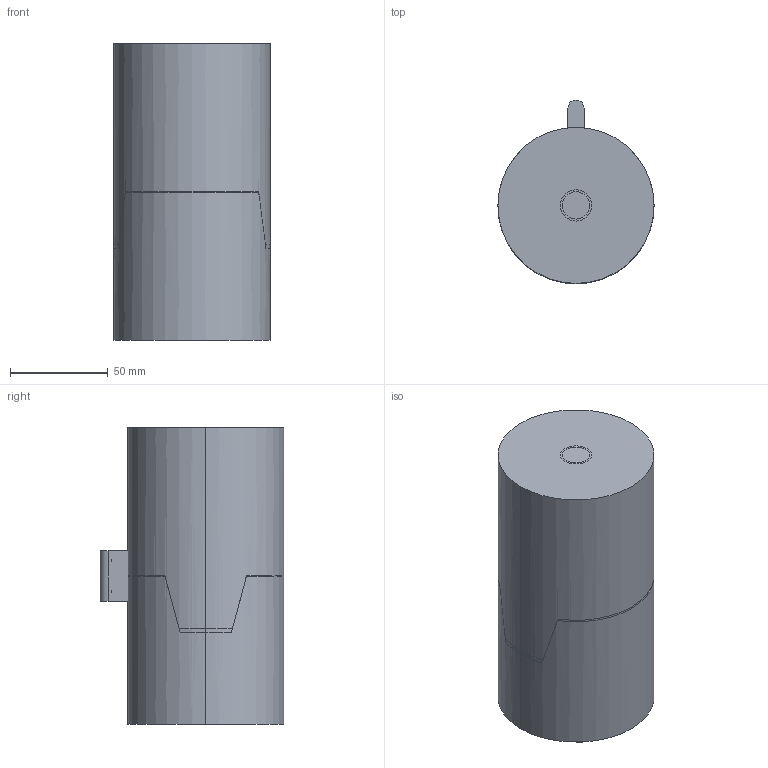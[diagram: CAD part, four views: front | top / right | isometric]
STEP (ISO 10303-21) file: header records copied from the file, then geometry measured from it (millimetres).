
FILE_DESCRIPTION (( 'STEP AP214' ), '1' );
FILE_NAME ('BruyRubio_BR06_80.STEP', '2019-12-17T08:50:02', ( '' ), ( '' ), 'SwSTEP 2.0', 'SolidWorks 2017', '' );
FILE_SCHEMA (( 'AUTOMOTIVE_DESIGN' ));
Length unit declared in the file: millimetre
Products named in the file (5): BruyRubio_BR06_80; Einbauraum_7e851a; BR06 80_c9c347; PAS 8 x 20_9be34c; PAS 8 x 20_d41990
Assembly tree (4 placements, depth 2):
  BruyRubio_BR06_80
    Einbauraum_7e851a
    BR06 80_c9c347
    PAS 8 x 20_9be34c
    PAS 8 x 20_d41990
Bounding box: 80 x 94.1 x 152 mm (x, y, z)
Surface area: 124701.4 mm2
Topology: 8 solids, 8 shells, 72 faces, 154 edges, 101 vertices
Faces by surface type: cylinder 31, plane 27, sphere 8, cone 6
Entity records: 3136 total; most frequent: CARTESIAN_POINT 488, DIRECTION 384, ORIENTED_EDGE 304, AXIS2_PLACEMENT_3D 165, EDGE_CURVE 152, VERTEX_POINT 101, UNCERTAINTY_MEASURE_WITH_UNIT 89, CIRCLE 86
